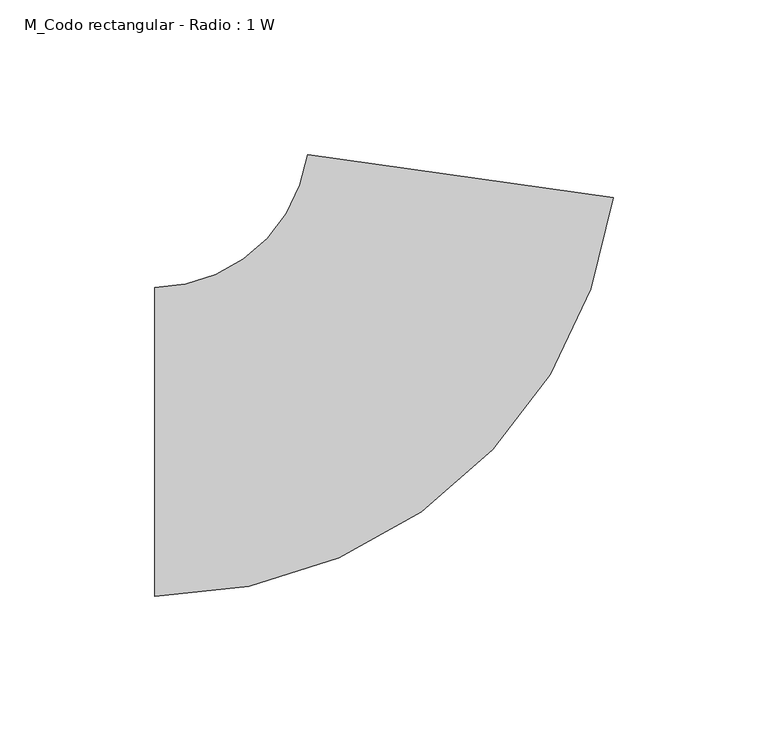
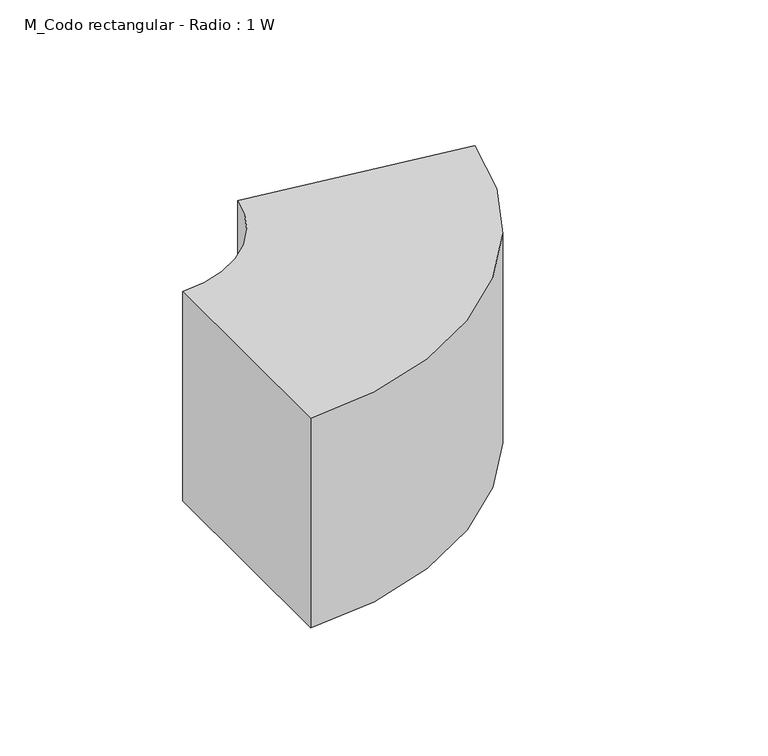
"""IFC4 building model written with IfcOpenShell, lengths in millimetres: duct fitting geometry, M_Codo rectangular - Radio : 1 W."""

from ifc_helpers import new_model, si_unit, point, frame, frame_2d, origin, place, context, project, spatial, polyline, circle_curve, trimmed, segment, composite_curve, outline, extrude, source, transform, mapped, element, save


def m_codo_rectangular_radio_1_w_b7281a30(model_context):
    return source(origin(), model_context, "Body", "SweptSolid", [
        extrude(outline(composite_curve([segment(trimmed(circle_curve(frame_2d((-86.9286738, 100.0)), 150.0), [point((61.6115365, 79.1240349))], [point((-86.9286738, -50.0))], False, "CARTESIAN"), True, "CONTINUOUS"), segment(polyline([(-86.9286738, -50.0), (-86.9286738, 50.0)]), True, "CONTINUOUS"), segment(trimmed(circle_curve(frame_2d((-86.9286738, 100.0)), 50.0), [point((-86.9286738, 50.0))], [point((-37.4152703, 93.041345))], True, "CARTESIAN"), True, "CONTINUOUS"), segment(polyline([(-37.4152703, 93.041345), (61.6115365, 79.1240349)]), True, "CONTINUOUS")], self_intersect=False)), frame((0.0, 0.0, -50.0), z_axis=(0.0, 0.0, 1.0), x_axis=(1.0, 0.0, 0.0)), (0.0, 0.0, 1.0), 100.0),
    ])


if __name__ == "__main__":
    model = new_model("IFC4")
    model_context = context("Model", 3, world=origin())
    ifc_project = project(units=[si_unit("LENGTHUNIT", "METRE", prefix="MILLI")], contexts=[model_context])
    site = spatial("IfcSite", under=ifc_project)
    building = spatial("IfcBuilding", under=site)
    placement = place(None, origin())
    m_codo_rectangular_radio_1_w_shape = m_codo_rectangular_radio_1_w_b7281a30(model_context)
    element("IfcDuctFitting", 1, ObjectType="M_Codo rectangular - Radio : 1 W", at=placement, inside=building, context=model_context, shape_type="MappedRepresentation", body=[
        mapped(m_codo_rectangular_radio_1_w_shape, transform((0.0, 0.0, 0.0), x_axis=(1.0, 0.0, 0.0), y_axis=(0.0, 1.0, 0.0), z_axis=(0.0, 0.0, 1.0))),
    ])
    save(model, "model.ifc")
